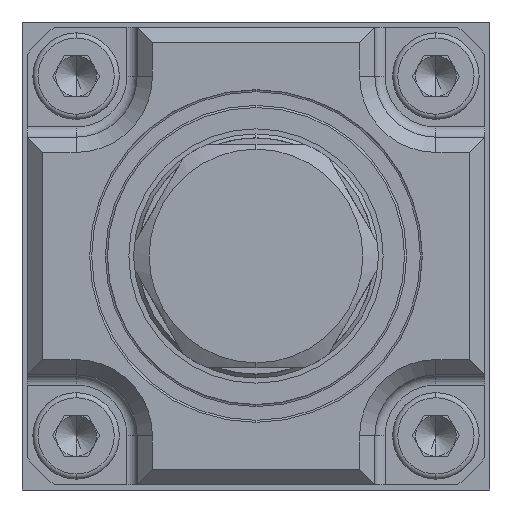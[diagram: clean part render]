
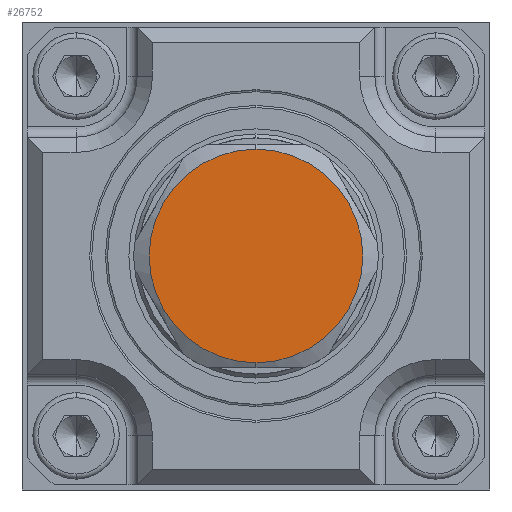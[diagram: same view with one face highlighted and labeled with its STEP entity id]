
A CAD part, left-side view. The second image highlights one B-rep face of the part: STEP entity #26752.
In plain terms, the highlighted planar face has unit normal (-1, 0, 0).
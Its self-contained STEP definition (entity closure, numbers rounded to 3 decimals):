
#746 = CARTESIAN_POINT ( 'NONE',  ( -18.35, 0., 0. ) ) ;
#2636 = EDGE_CURVE ( 'NONE', #6969, #32391, #4734, .T. ) ;
#4123 = DIRECTION ( 'NONE',  ( 0., 0., 1. ) ) ;
#4734 = CIRCLE ( 'NONE', #16200, 10.5 ) ;
#6969 = VERTEX_POINT ( 'NONE', #15473 ) ;
#9666 = FACE_OUTER_BOUND ( 'NONE', #11318, .T. ) ;
#9859 = ORIENTED_EDGE ( 'NONE', *, *, #2636, .T. ) ;
#10749 = PLANE ( 'NONE',  #11733 ) ;
#11027 = DIRECTION ( 'NONE',  ( -1., 0., 0. ) ) ;
#11318 = EDGE_LOOP ( 'NONE', ( #16750, #9859 ) ) ;
#11733 = AXIS2_PLACEMENT_3D ( 'NONE', #746, #16471, #21768 ) ;
#14003 = CARTESIAN_POINT ( 'NONE',  ( -18.35, 0., -10.5 ) ) ;
#14314 = AXIS2_PLACEMENT_3D ( 'NONE', #21946, #11027, #26707 ) ;
#15473 = CARTESIAN_POINT ( 'NONE',  ( -18.35, 0., 10.5 ) ) ;
#16200 = AXIS2_PLACEMENT_3D ( 'NONE', #17034, #24729, #4123 ) ;
#16471 = DIRECTION ( 'NONE',  ( -1., 0., 0. ) ) ;
#16750 = ORIENTED_EDGE ( 'NONE', *, *, #32271, .T. ) ;
#17034 = CARTESIAN_POINT ( 'NONE',  ( -18.35, 0., 0. ) ) ;
#20266 = CIRCLE ( 'NONE', #14314, 10.5 ) ;
#21768 = DIRECTION ( 'NONE',  ( 0., 0., 1. ) ) ;
#21946 = CARTESIAN_POINT ( 'NONE',  ( -18.35, 0., 0. ) ) ;
#24729 = DIRECTION ( 'NONE',  ( -1., 0., 0. ) ) ;
#26707 = DIRECTION ( 'NONE',  ( 0., 0., 1. ) ) ;
#26752 = ADVANCED_FACE ( 'NONE', ( #9666 ), #10749, .T. ) ;
#32271 = EDGE_CURVE ( 'NONE', #32391, #6969, #20266, .T. ) ;
#32391 = VERTEX_POINT ( 'NONE', #14003 ) ;
